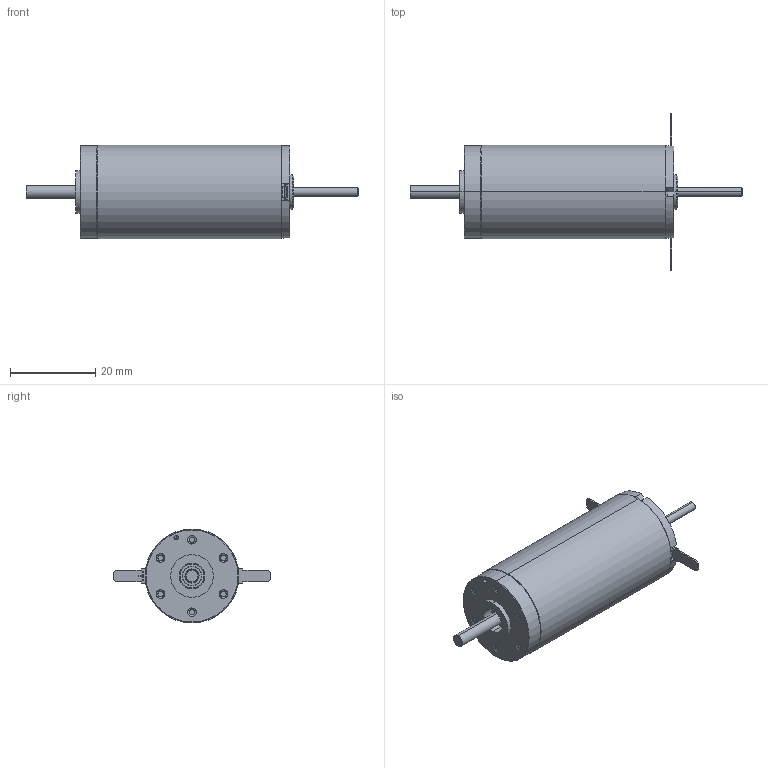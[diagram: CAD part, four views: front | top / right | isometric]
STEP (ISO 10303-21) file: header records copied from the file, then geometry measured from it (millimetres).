
FILE_DESCRIPTION (( 'STEP AP214' ), '1' );
FILE_NAME ('DCX22LG.STEP', '2014-10-15T07:55:29', ( '' ), ( '' ), 'SwSTEP 2.0', 'SolidWorks 2013', '' );
FILE_SCHEMA (( 'AUTOMOTIVE_DESIGN' ));
Length unit declared in the file: millimetre
Products named in the file (16): 1228536; 4; 3; 2; 6; 14; 7; 8; 13; 10; 5; DCX22LG; 12; 11; 9; 1
Assembly tree (15 placements, depth 2):
  DCX22LG
    5
    10
    13
    8
    7
    14
    6
    2
    3
    4
    1228536
    1
    9
    11
    12
Bounding box: 77.95 x 36.9 x 22 mm (x, y, z)
Volume: 16759.3 mm3; surface area: 9346.7 mm2
Topology: 15 solids, 15 shells, 811 faces, 1945 edges, 1210 vertices
Faces by surface type: cylinder 296, plane 252, cone 180, bspline 83
Entity records: 36580 total; most frequent: CARTESIAN_POINT 7846, DIRECTION 4218, ORIENTED_EDGE 3886, EDGE_CURVE 1943, AXIS2_PLACEMENT_3D 1625, VERTEX_POINT 1210, VECTOR 968, LINE 968
